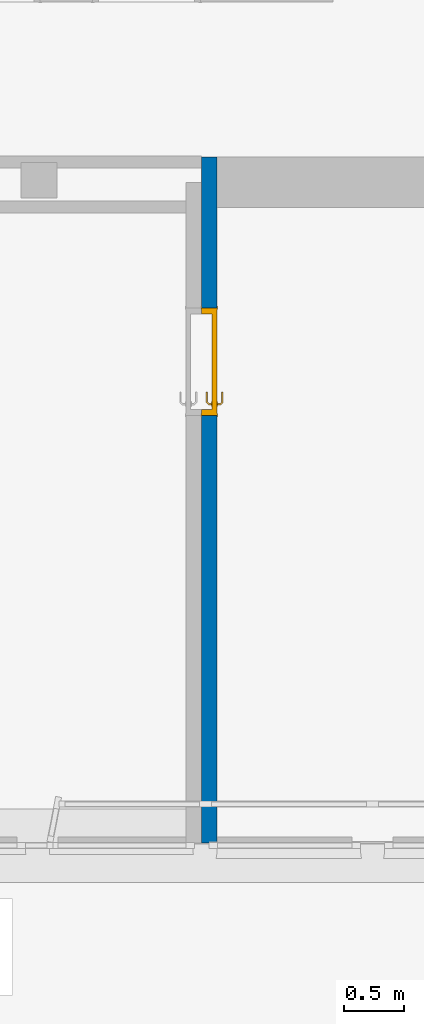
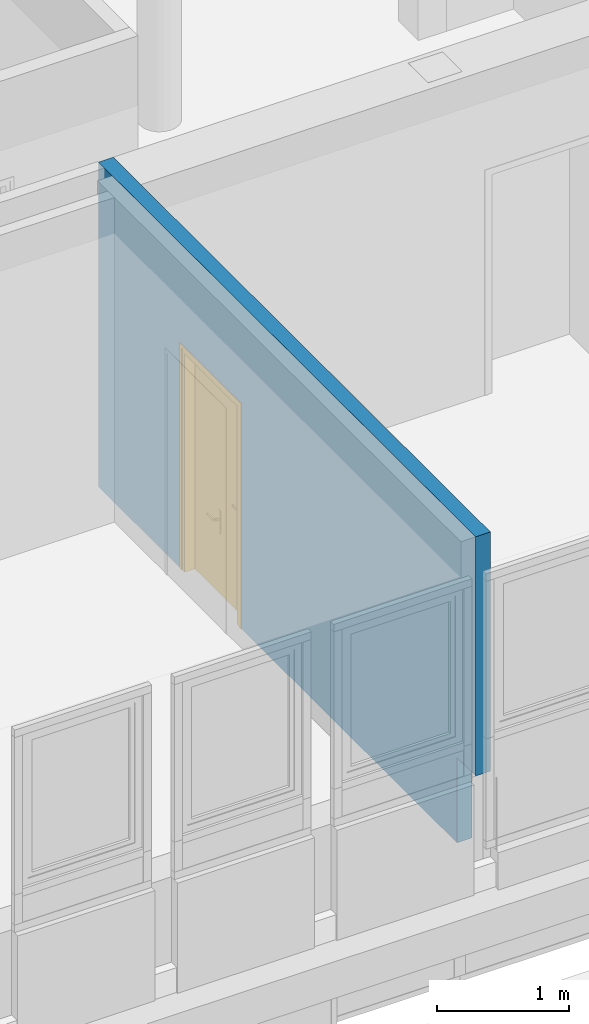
# One storey, part 44 of 97: 1 door, 1 wall, 1 opening.
"""IFC4 building model written with IfcOpenShell, lengths in metres."""

from ifc_helpers import new_model, entity, si_unit, converted_unit, derived_unit, direction, frame, origin, place, context, subcontext, project, spatial, indexed_curve, outline, extrude, polygons, source, transform, mapped, material, material_list, layer, layer_set, constituent, constituent_set, type_object, type_shapes, element, fill, save


model = new_model("IFC4")

# Units and contexts
model_context = context("Model", 3, precision=1e-05, world=origin(), true_north=direction((6.12303176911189e-17, 1.0)))
body_context = subcontext(model_context, "Body", "Model", "MODEL_VIEW")
ifc_project = project(units=[si_unit("LENGTHUNIT", "METRE"), si_unit("AREAUNIT", "SQUARE_METRE"), si_unit("VOLUMEUNIT", "CUBIC_METRE"), converted_unit("PLANEANGLEUNIT", "DEGREE", entity("IfcRatioMeasure", 0.0174532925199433), si_unit("PLANEANGLEUNIT", "RADIAN"), dimensions=[0, 0, 0, 0, 0, 0, 0]), si_unit("MASSUNIT", "GRAM", prefix="KILO"), derived_unit("MASSDENSITYUNIT", [(si_unit("MASSUNIT", "GRAM", prefix="KILO"), 1), (si_unit("LENGTHUNIT", "METRE"), -3)]), derived_unit("MOMENTOFINERTIAUNIT", [(si_unit("LENGTHUNIT", "METRE"), 4)]), si_unit("TIMEUNIT", "SECOND"), si_unit("FREQUENCYUNIT", "HERTZ"), si_unit("THERMODYNAMICTEMPERATUREUNIT", "DEGREE_CELSIUS"), derived_unit("THERMALTRANSMITTANCEUNIT", [(si_unit("MASSUNIT", "GRAM", prefix="KILO"), 1), (si_unit("THERMODYNAMICTEMPERATUREUNIT", "KELVIN"), -1), (si_unit("TIMEUNIT", "SECOND"), -3)]), derived_unit("VOLUMETRICFLOWRATEUNIT", [(si_unit("LENGTHUNIT", "METRE"), 3), (si_unit("TIMEUNIT", "SECOND"), -1)]), si_unit("ELECTRICCURRENTUNIT", "AMPERE"), si_unit("ELECTRICVOLTAGEUNIT", "VOLT"), si_unit("POWERUNIT", "WATT"), si_unit("FORCEUNIT", "NEWTON", prefix="KILO"), si_unit("ILLUMINANCEUNIT", "LUX"), si_unit("LUMINOUSFLUXUNIT", "LUMEN"), si_unit("LUMINOUSINTENSITYUNIT", "CANDELA"), derived_unit("USERDEFINED", [(si_unit("MASSUNIT", "GRAM", prefix="KILO"), -1), (si_unit("LENGTHUNIT", "METRE"), -2), (si_unit("TIMEUNIT", "SECOND"), 3), (si_unit("LUMINOUSFLUXUNIT", "LUMEN"), 1)]), derived_unit("LINEARVELOCITYUNIT", [(si_unit("LENGTHUNIT", "METRE"), 1), (si_unit("TIMEUNIT", "SECOND"), -1)]), si_unit("PRESSUREUNIT", "PASCAL"), derived_unit("USERDEFINED", [(si_unit("LENGTHUNIT", "METRE"), -2), (si_unit("MASSUNIT", "GRAM", prefix="KILO"), 1), (si_unit("TIMEUNIT", "SECOND"), -2)]), derived_unit("LINEARFORCEUNIT", [(si_unit("MASSUNIT", "GRAM", prefix="KILO"), 1), (si_unit("LENGTHUNIT", "METRE"), 1), (si_unit("TIMEUNIT", "SECOND"), -2), (si_unit("LENGTHUNIT", "METRE"), -1)]), derived_unit("PLANARFORCEUNIT", [(si_unit("MASSUNIT", "GRAM", prefix="KILO"), 1), (si_unit("LENGTHUNIT", "METRE"), 1), (si_unit("TIMEUNIT", "SECOND"), -2), (si_unit("LENGTHUNIT", "METRE"), -2)])], contexts=[model_context])

# Site, building, storey
site_placement = place(None, origin())
site = spatial("IfcSite", under=ifc_project, at=site_placement, Name="Default", CompositionType="ELEMENT")
building_placement = place(site_placement, origin())
building = spatial("IfcBuilding", under=site, at=building_placement, Name="HOTEL CONSULAIRE BOULOGNE SUR MER", CompositionType="ELEMENT")
storey_placement = place(building_placement, frame((0.0, 0.0, 3.62152697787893)))
storey = spatial("IfcBuildingStorey", under=building, at=storey_placement, Name="Niveau 1", CompositionType="ELEMENT", Elevation=3.62152697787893)

# Wall, opening, door
ifc_material_1 = material(Name="Mur par défaut", Category="Divers")
ifc_layer = layer(ifc_material_1, 0.13, Name="Mur par défaut", Category="Divers")
ifc_layer_set = layer_set([ifc_layer], Name="Mur de base:Générique - Int. 130 mm")
wall_type = type_object("IfcWallType", Name="Mur de base:Générique - Int. 130 mm", PredefinedType="NOTDEFINED", material=ifc_layer_set)
wall_placement = place(storey_placement, frame((4.3935800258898, -23.8227611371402, 0.0), z_axis=(0.0, 0.0, 1.0), x_axis=(0.0, -1.0, 0.0)))
wall = element("IfcWall", 1, at=wall_placement, inside=storey, type_object=wall_type, material=ifc_layer_set, Name="Mur de base:Générique - Int. 130 mm", ObjectType="Mur de base:Générique - Int. 130 mm", PredefinedType="NOTDEFINED", context=body_context, shape_type="Tessellation", body=[
    polygons([(1.259, -0.0650000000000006, 0.0), (0.0919303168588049, -0.0649999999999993, 0.0), (0.0, -0.0650000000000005, 0.0), (0.0, 0.0649999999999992, 0.0), (0.42, 0.0649999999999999, 0.0), (1.259, 0.0649999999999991, 0.0), (5.73130596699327, -0.0650000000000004, 3.01021454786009), (0.0919303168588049, -0.0650000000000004, 3.01021454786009), (0.0, -0.0650000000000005, 3.01021454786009), (1.259, -0.0650000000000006, 2.075), (2.159, -0.0650000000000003, 2.075), (2.159, -0.0650000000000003, 0.0), (5.44734358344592, -0.0650000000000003, 0.0), (5.44734358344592, -0.0650000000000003, 0.791612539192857), (5.73130596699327, -0.0650000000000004, 0.791612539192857), (0.0, 0.0649999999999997, 3.01021454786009), (0.42, 0.0649999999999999, 3.01021454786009), (5.73130596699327, 0.0649999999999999, 3.01021454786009), (5.73130596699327, 0.0649999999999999, 0.791612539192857), (5.44734358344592, 0.0649999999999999, 0.791612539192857), (5.44734358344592, 0.0649999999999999, 0.116102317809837), (5.44734358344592, 0.0649999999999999, 0.0), (2.159, 0.065, 0.0), (2.159, 0.065, 2.075), (1.259, 0.0649999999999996, 2.075)], [[[5, 6, 1, 2, 3, 4]], [[23, 22, 13, 12]], [[11, 10, 25, 24]], [[15, 14, 20, 19]], [[10, 11, 12, 13, 14, 15, 7, 8, 9, 3, 2, 1]], [[23, 24, 25, 6, 5, 4, 16, 17, 18, 19, 20, 21, 22]], [[16, 4, 3, 9]], [[12, 11, 24, 23]], [[10, 1, 6, 25]], [[14, 13, 22, 21, 20]], [[7, 15, 19, 18]], [[8, 7, 18, 17, 16, 9]]], closed=True),
])
opening_placement = place(wall_placement, frame((1.25900000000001, -0.0649999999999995, 0.0)))
opening = element("IfcOpeningElement", 2, at=opening_placement, cuts=wall, Name="Int. Simple:PP (0.83m x 2.04m):1", ObjectType="Opening", PredefinedType="OPENING", context=body_context, shape_type="SweptSolid", body=[
    extrude(outline(indexed_curve([(0.0, 1.08286712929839e-15), (2.075, 1.08286712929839e-15), (2.075, 0.9), (0.0, 0.9), (0.0, 1.08286712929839e-15)], self_intersect=False)), frame((0.0, 0.0, 0.0), z_axis=(0.0, 1.0, 0.0), x_axis=(0.0, 0.0, 1.0)), (0.0, 0.0, 1.0), 0.13),
])
ifc_material_2 = material(Name="Finition Peinture - Blanc satiné", Category="Peinture")
ifc_constituent_1 = constituent(ifc_material_2, Name="Finition Peinture - Blanc satiné", Category="Matériaux")
ifc_material_3 = material(Name="Bois - Panneau de porte", Category="Bois")
ifc_constituent_2 = constituent(ifc_material_3, Name="Bois - Panneau de porte", Category="Matériaux")
ifc_material_4 = material(Name="Bois - Cadre de porte", Category="Bois")
ifc_constituent_3 = constituent(ifc_material_4, Name="Bois - Cadre de porte", Category="Matériaux")
ifc_constituent_set = constituent_set(constituents=[ifc_constituent_1, ifc_constituent_2, ifc_constituent_3], Name="MaterialConstituentSet")
ifc_material_list = material_list([ifc_material_4, ifc_material_4, ifc_material_3, ifc_material_2])
door_type = type_object("IfcDoorType", Name="Int. Simple:PP (0.83m x 2.04m)", OperationType="NOTDEFINED", PredefinedType="DOOR", material=ifc_material_list)
shared_shape = source(origin(), body_context, "Body", "Tessellation", [
    polygons([(0.0750000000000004, -0.00500000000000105, 0.870000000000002), (0.0846472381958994, -0.00500000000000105, 0.866003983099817), (0.0950000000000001, -0.00500000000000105, 0.86464101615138), (0.105352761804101, -0.00500000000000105, 0.866003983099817), (0.115, -0.00500000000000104, 0.870000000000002), (0.114999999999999, -0.00500000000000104, 1.08), (0.1053527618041, -0.00500000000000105, 1.08399601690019), (0.094999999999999, -0.00500000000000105, 1.08535898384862), (0.0846472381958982, -0.00500000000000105, 1.08399601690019), (0.0749999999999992, -0.00500000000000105, 1.08), (0.0749999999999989, -1.05748743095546e-15, 0.870000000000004), (0.0749999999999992, -1.05748743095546e-15, 1.08), (0.0846472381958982, -1.05748743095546e-15, 1.08399601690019), (0.094999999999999, -1.04902753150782e-15, 1.08535898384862), (0.1053527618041, -1.04902753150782e-15, 1.08399601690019), (0.114999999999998, -1.04056763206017e-15, 1.08), (0.115, -1.04056763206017e-15, 0.870000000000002), (0.105352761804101, -1.04902753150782e-15, 0.866003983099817), (0.0950000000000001, -1.04902753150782e-15, 0.86464101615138), (0.0846472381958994, -1.05748743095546e-15, 0.866003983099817)], [[[4, 5, 6, 7, 8, 9, 10, 1, 2, 3]], [[15, 16, 17, 18, 19, 20, 11, 12, 13, 14]], [[11, 20, 2, 1]], [[2, 20, 19, 3]], [[19, 18, 4, 3]], [[18, 17, 5, 4]], [[6, 5, 17, 16]], [[16, 15, 7, 6]], [[7, 15, 14, 8]], [[14, 13, 9, 8]], [[13, 12, 10, 9]], [[1, 10, 12, 11]]], closed=True),
    polygons([(0.114999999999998, 0.0399999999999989, 1.08), (0.105352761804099, 0.0399999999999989, 1.08399601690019), (0.0949999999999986, 0.0399999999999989, 1.08535898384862), (0.084647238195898, 0.0399999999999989, 1.08399601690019), (0.0749999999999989, 0.0399999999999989, 1.08), (0.0750000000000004, 0.0399999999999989, 0.870000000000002), (0.0846472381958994, 0.0399999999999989, 0.866003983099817), (0.0950000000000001, 0.0399999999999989, 0.86464101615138), (0.105352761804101, 0.0399999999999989, 0.866003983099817), (0.115, 0.0399999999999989, 0.870000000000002), (0.114999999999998, 0.0449999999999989, 1.08), (0.115, 0.0449999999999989, 0.870000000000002), (0.105352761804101, 0.0449999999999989, 0.866003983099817), (0.0950000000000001, 0.0449999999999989, 0.86464101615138), (0.0846472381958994, 0.0449999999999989, 0.866003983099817), (0.0749999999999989, 0.0449999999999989, 0.870000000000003), (0.0749999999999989, 0.0449999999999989, 1.08), (0.084647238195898, 0.0449999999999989, 1.08399601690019), (0.0949999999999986, 0.0449999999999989, 1.08535898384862), (0.105352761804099, 0.0449999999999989, 1.08399601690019)], [[[9, 10, 1, 2, 3, 4, 5, 6, 7, 8]], [[20, 11, 12, 13, 14, 15, 16, 17, 18, 19]], [[11, 20, 2, 1]], [[2, 20, 19, 3]], [[19, 18, 4, 3]], [[18, 17, 5, 4]], [[6, 5, 17, 16]], [[16, 15, 7, 6]], [[7, 15, 14, 8]], [[14, 13, 9, 8]], [[13, 12, 10, 9]], [[1, 10, 12, 11]]], closed=True),
    polygons([(0.0889999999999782, -0.00500000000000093, 1.007), (0.0929747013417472, -0.00500000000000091, 1.00778044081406), (0.0970252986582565, -0.00500000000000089, 1.00778044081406), (0.101000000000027, -0.00500000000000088, 1.00699999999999), (0.101000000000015, -0.00500000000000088, 0.993000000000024), (0.0970252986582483, -0.00500000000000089, 0.992219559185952), (0.0929747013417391, -0.00500000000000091, 0.99221955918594), (0.0889999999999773, -0.00500000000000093, 0.992999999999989), (0.0889999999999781, -0.0326509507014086, 1.007), (0.092974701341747, -0.0310045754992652, 1.00778044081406), (0.0970252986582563, -0.0293267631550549, 1.00778044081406), (0.101000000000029, -0.0276803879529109, 1.007), (0.101000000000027, -0.0276803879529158, 0.993000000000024), (0.0970252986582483, -0.0293267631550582, 0.992219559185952), (0.0929747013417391, -0.0310045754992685, 0.99221955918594), (0.0889999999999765, -0.0326509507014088, 0.992999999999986), (0.107377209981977, -0.0510281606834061, 1.007), (0.10902358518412, -0.0470534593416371, 1.00778044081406), (0.110701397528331, -0.0430028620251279, 1.00778044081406), (0.112347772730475, -0.0390281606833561, 1.007), (0.112347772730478, -0.0390281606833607, 0.993000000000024), (0.110701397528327, -0.0430028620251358, 0.992219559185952), (0.109023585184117, -0.0470534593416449, 0.99221955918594), (0.107377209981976, -0.0510281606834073, 0.992999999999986), (0.195018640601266, -0.0510281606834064, 1.00699999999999), (0.195018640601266, -0.051028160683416, 0.992999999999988), (0.195018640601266, -0.0470534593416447, 0.99221955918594), (0.195018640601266, -0.0430028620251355, 0.992219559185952), (0.195018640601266, -0.0390281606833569, 0.993000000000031), (0.195018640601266, -0.0390281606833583, 1.007), (0.195018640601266, -0.0430028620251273, 1.00778044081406), (0.195018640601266, -0.0470534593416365, 1.00778044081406), (0.147307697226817, -0.0510281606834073, 1.007), (0.152860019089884, -0.045028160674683, 1.0078786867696), (0.15368320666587, -0.039028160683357, 1.007), (0.147307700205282, -0.0510281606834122, 0.992999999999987), (0.152860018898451, -0.0450281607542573, 0.992121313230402), (0.153683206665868, -0.0390281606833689, 0.993000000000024)], [[[2, 3, 4, 5, 6, 7, 8, 1]], [[21, 20, 35, 30, 29, 38]], [[9, 10, 2, 1]], [[10, 18, 19, 11, 3, 2]], [[11, 12, 4, 3]], [[5, 4, 12, 13]], [[26, 27, 28, 29, 30, 31, 32, 25]], [[13, 14, 6, 5]], [[14, 22, 23, 15, 7, 6]], [[15, 16, 8, 7]], [[1, 8, 16, 9]], [[17, 18, 10, 9]], [[19, 20, 12, 11]], [[13, 12, 20, 21]], [[21, 22, 14, 13]], [[23, 24, 16, 15]], [[9, 16, 24, 17]], [[33, 32, 34]], [[25, 32, 33]], [[18, 17, 33]], [[34, 35, 19]], [[20, 19, 35]], [[35, 31, 30]], [[32, 31, 34]], [[31, 35, 34]], [[18, 33, 34]], [[18, 34, 19]], [[38, 28, 37]], [[36, 37, 27]], [[21, 38, 22]], [[38, 29, 28]], [[26, 36, 27]], [[24, 23, 36]], [[36, 23, 37]], [[23, 22, 37]], [[22, 38, 37]], [[27, 37, 28]], [[17, 24, 36, 26, 25, 33]]], closed=True),
    polygons([(0.10100000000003, 0.0449999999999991, 0.993000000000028), (0.101000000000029, 0.0449999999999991, 1.007), (0.0970252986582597, 0.0449999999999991, 1.00778044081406), (0.0929747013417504, 0.0449999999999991, 1.00778044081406), (0.0889999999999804, 0.0449999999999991, 1.007), (0.0889999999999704, 0.0449999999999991, 0.992999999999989), (0.0929747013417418, 0.0449999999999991, 0.99221955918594), (0.0970252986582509, 0.0449999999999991, 0.992219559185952), (0.10100000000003, 0.067485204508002, 0.993000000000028), (0.10100000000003, 0.0674852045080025, 1.007), (0.0970252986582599, 0.0691315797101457, 1.00778044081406), (0.0929747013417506, 0.070809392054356, 1.00778044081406), (0.0889999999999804, 0.0724557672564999, 1.007), (0.0889999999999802, 0.072455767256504, 0.992999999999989), (0.0929747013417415, 0.0708093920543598, 0.99221955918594), (0.0970252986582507, 0.0691315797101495, 0.992219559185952), (0.112485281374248, 0.0789704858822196, 0.993000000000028), (0.112485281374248, 0.0789704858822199, 1.007), (0.110838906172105, 0.0829451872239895, 1.00778044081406), (0.109161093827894, 0.0869957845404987, 1.00778044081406), (0.107514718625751, 0.090970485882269, 1.007), (0.107514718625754, 0.090970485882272, 0.992999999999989), (0.109161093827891, 0.0869957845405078, 0.99221955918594), (0.110838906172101, 0.0829451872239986, 0.992219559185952), (0.195045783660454, 0.0789704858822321, 0.993000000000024), (0.195045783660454, 0.0829451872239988, 0.992219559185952), (0.195045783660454, 0.086995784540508, 0.99221955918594), (0.195045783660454, 0.0909704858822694, 0.992999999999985), (0.195045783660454, 0.0909704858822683, 1.007), (0.195045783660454, 0.0869957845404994, 1.00778044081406), (0.195045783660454, 0.0829451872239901, 1.00778044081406), (0.195045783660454, 0.0789704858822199, 1.007), (0.147445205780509, 0.0909704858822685, 1.007), (0.152942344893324, 0.0849704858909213, 1.0078786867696), (0.153765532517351, 0.0789704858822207, 1.007), (0.147445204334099, 0.0909704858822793, 0.992999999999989), (0.152942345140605, 0.0849704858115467, 0.992121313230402), (0.153765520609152, 0.0789704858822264, 0.993000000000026)], [[[4, 5, 6, 7, 8, 1, 2, 3]], [[18, 17, 38, 25, 32, 35]], [[2, 1, 9, 10]], [[25, 26, 27, 28, 29, 30, 31, 32]], [[10, 11, 3, 2]], [[11, 19, 20, 12, 4, 3]], [[12, 13, 5, 4]], [[6, 5, 13, 14]], [[14, 15, 7, 6]], [[15, 23, 24, 16, 8, 7]], [[16, 9, 1, 8]], [[10, 9, 17, 18]], [[18, 19, 11, 10]], [[20, 21, 13, 12]], [[14, 13, 21, 22]], [[22, 23, 15, 14]], [[24, 17, 9, 16]], [[35, 31, 34]], [[33, 34, 30]], [[18, 35, 19]], [[35, 32, 31]], [[29, 33, 30]], [[21, 20, 33]], [[33, 20, 34]], [[20, 19, 34]], [[19, 35, 34]], [[30, 34, 31]], [[21, 33, 29, 28, 36, 22]], [[36, 27, 37]], [[28, 27, 36]], [[23, 22, 36]], [[37, 38, 24]], [[17, 24, 38]], [[38, 26, 25]], [[27, 26, 37]], [[26, 38, 37]], [[23, 36, 37]], [[23, 37, 24]]], closed=True),
    polygons([(0.034999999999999, 0.04, 2.04), (0.865, 0.04, 2.04), (0.864999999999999, 0.04, 0.0), (0.034999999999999, 0.04, 0.0), (0.034999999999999, 4.22994972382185e-17, 2.04), (0.034999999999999, 4.22994972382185e-17, 0.0), (0.864999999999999, 4.22994972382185e-17, 0.0), (0.865, 4.22994972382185e-17, 2.04)], [[[4, 1, 2, 3]], [[7, 8, 5, 6]], [[2, 1, 5, 8]], [[3, 2, 8, 7]], [[4, 3, 7, 6]], [[1, 4, 6, 5]]], closed=True),
    polygons([(-1.54308565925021e-14, 1.69197988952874e-17, 0.0), (-1.54308565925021e-14, 0.130000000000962, 0.0), (0.0499999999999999, 0.130000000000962, 0.0), (0.0499999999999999, 0.0400000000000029, 0.0), (0.0349999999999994, 0.0400000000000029, 0.0), (0.0349999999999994, 1.69197988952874e-17, 0.0), (-1.53631773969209e-14, 1.69197988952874e-17, 2.07500000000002), (-1.53631773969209e-14, 0.130000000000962, 2.07500000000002), (0.900000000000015, 0.130000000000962, 2.07500000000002), (0.900000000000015, 0.130000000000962, 9.23443718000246e-25), (0.85, 0.130000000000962, 6.02669015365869e-24), (0.85, 0.130000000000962, 2.025), (0.05, 0.130000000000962, 2.025), (0.05, 0.0400000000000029, 2.025), (0.85, 0.0400000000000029, 2.025), (0.85, 0.0400000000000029, 1.99209609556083e-25), (0.865, 0.0400000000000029, 1.51399294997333e-24), (0.865000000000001, 0.0400000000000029, 2.04), (0.0349999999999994, 0.0400000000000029, 2.04), (0.0349999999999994, 1.69197988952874e-17, 2.04), (0.865, 1.69197988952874e-17, 2.04), (0.865, 1.69197988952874e-17, 3.40121094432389e-24), (0.900000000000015, 1.69197988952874e-17, 1.81925185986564e-24), (0.900000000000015, 1.69197988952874e-17, 2.07500000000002)], [[[5, 6, 1, 2, 3, 4]], [[11, 10, 23, 22, 17, 16]], [[14, 13, 12, 15]], [[20, 19, 18, 21]], [[2, 1, 7, 8]], [[15, 12, 11, 16]], [[21, 18, 17, 22]], [[3, 2, 8, 9, 10, 11, 12, 13]], [[4, 3, 13, 14]], [[6, 5, 19, 20]], [[9, 24, 23, 10]], [[16, 17, 18, 19, 5, 4, 14, 15]], [[22, 23, 24, 7, 1, 6, 20, 21]], [[8, 7, 24, 9]]], closed=True),
    polygons([(0.0149999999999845, 0.130000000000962, 1.35358391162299e-16), (-0.0150000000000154, 0.130000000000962, 1.35358391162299e-16), (-0.0150000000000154, 0.135000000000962, 1.35358391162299e-16), (0.0149999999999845, 0.135000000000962, 1.35358391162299e-16), (0.0149999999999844, 0.130000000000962, 2.06000000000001), (0.884999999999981, 0.130000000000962, 2.06000000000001), (0.88499999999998, 0.130000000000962, 5.09144897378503e-24), (0.91499999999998, 0.130000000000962, -5.44393448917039e-24), (0.91499999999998, 0.130000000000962, 2.09000000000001), (-0.0150000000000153, 0.130000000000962, 2.09000000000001), (-0.0150000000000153, 0.135000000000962, 2.09000000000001), (0.91499999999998, 0.135000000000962, 2.09000000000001), (0.91499999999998, 0.135000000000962, 5.03766794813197e-24), (0.88499999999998, 0.135000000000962, -1.89153776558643e-24), (0.88499999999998, 0.135000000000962, 2.06000000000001), (0.0149999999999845, 0.135000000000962, 2.06000000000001)], [[[1, 2, 3, 4]], [[14, 13, 8, 7]], [[5, 16, 15, 6]], [[7, 8, 9, 10, 2, 1, 5, 6]], [[3, 2, 10, 11]], [[6, 15, 14, 7]], [[4, 3, 11, 12, 13, 14, 15, 16]], [[1, 4, 16, 5]], [[12, 9, 8, 13]], [[11, 10, 9, 12]]], closed=True),
    polygons([(0.0149999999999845, -0.005, 1.35358391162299e-16), (-0.0150000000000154, -0.005, 1.35358391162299e-16), (-0.0150000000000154, 1.69197988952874e-17, 1.35358391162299e-16), (0.0149999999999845, 1.69197988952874e-17, 1.35358391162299e-16), (0.88499999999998, -0.005, -1.35358391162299e-16), (0.88499999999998, 1.69197988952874e-17, -1.35358391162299e-16), (0.91499999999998, 1.69197988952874e-17, -1.35358391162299e-16), (0.91499999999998, -0.005, -1.35358391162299e-16), (0.0149999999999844, -0.005, 2.06000000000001), (0.884999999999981, -0.005, 2.06000000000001), (0.91499999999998, -0.005, 2.09000000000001), (-0.0150000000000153, -0.005, 2.09000000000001), (-0.0150000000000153, 1.69197988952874e-17, 2.09000000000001), (0.91499999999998, 1.69197988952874e-17, 2.09000000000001), (0.88499999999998, 1.69197988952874e-17, 2.06000000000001), (0.0149999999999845, 1.69197988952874e-17, 2.06000000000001)], [[[1, 2, 3, 4]], [[6, 7, 8, 5]], [[9, 16, 15, 10]], [[5, 8, 11, 12, 2, 1, 9, 10]], [[3, 2, 12, 13]], [[10, 15, 6, 5]], [[4, 3, 13, 14, 7, 6, 15, 16]], [[1, 4, 16, 9]], [[14, 11, 8, 7]], [[13, 12, 11, 14]]], closed=True),
])
type_shapes(door_type, [shared_shape])
door_placement = place(opening_placement, frame((0.899999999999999, 0.129999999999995, 0.0), z_axis=(0.0, 0.0, 1.0), x_axis=(-1.0, 0.0, 0.0)))
door = element("IfcDoor", 3, at=door_placement, inside=storey, type_object=door_type, material=ifc_constituent_set, Name="Int. Simple:PP (0.83m x 2.04m)", ObjectType="Int. Simple:PP (0.83m x 2.04m)", OperationType="NOTDEFINED", OverallHeight=2.075, OverallWidth=0.899999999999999, PredefinedType="DOOR", context=body_context, shape_type="MappedRepresentation", body=[
    mapped(shared_shape, transform((0.0, 0.0, 0.0), scale=1.0)),
])
fill(opening, door)

save(model, "model.ifc")
